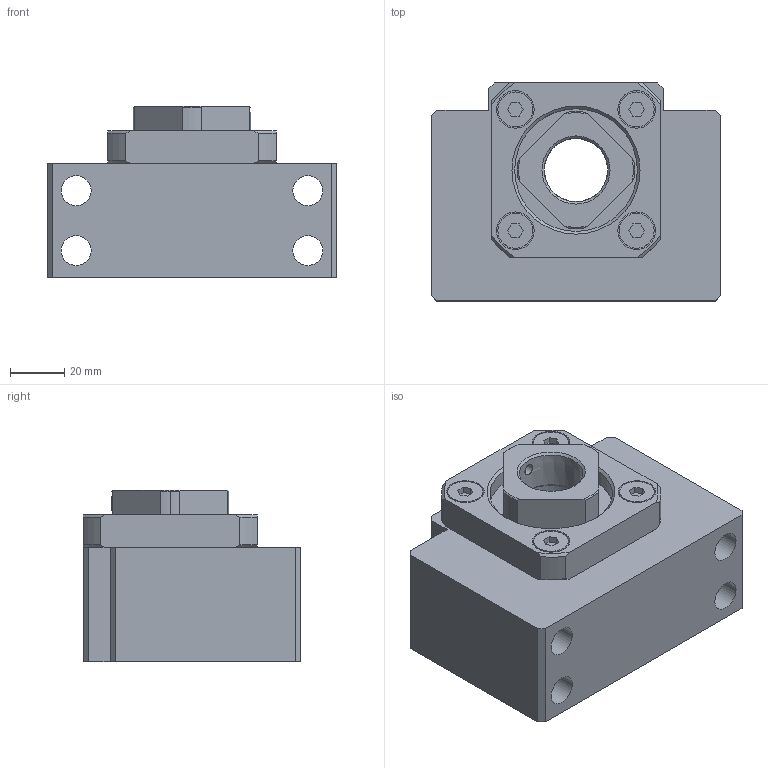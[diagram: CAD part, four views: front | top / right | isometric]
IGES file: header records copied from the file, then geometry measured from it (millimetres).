
Start section: Data from Parasolid IGES Translator 26.0.171, Copyright(c) 2006 Siemens PLM Software. All Rights Reserved.
Global section: file name: BK25Yes.igs; native system: By Siemens PLM Incorporated; preprocessor: XPlus GENERIC/IGES 26.0.171; author: Noname; organization: Noname; date: 20250610.123424; units: millimetre
Bounding box: 106 x 80 x 63 mm (x, y, z)
Surface area: 70863.6 mm2 (no closed solid volume)
Topology: 0 solids, 0 shells, 156 faces, 746 edges, 707 vertices
Faces by surface type: extrusion 94, revolution 62
